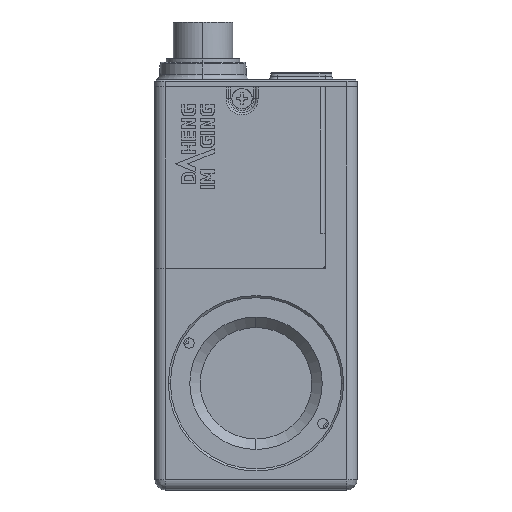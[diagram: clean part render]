
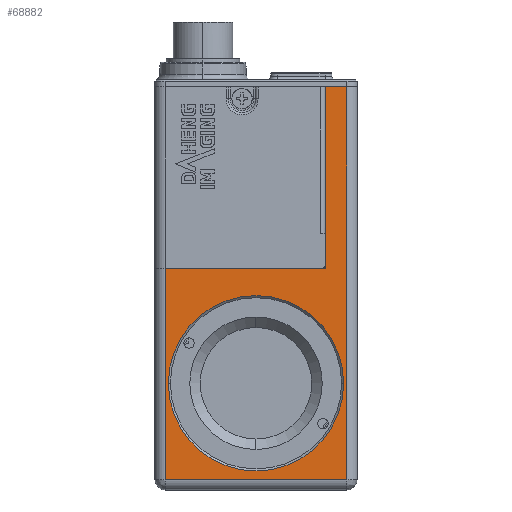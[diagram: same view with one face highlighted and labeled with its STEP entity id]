
A CAD part, left-side view. The second image highlights one B-rep face of the part: STEP entity #68882.
In plain terms, the highlighted planar face has unit normal (-1, 0, 0).
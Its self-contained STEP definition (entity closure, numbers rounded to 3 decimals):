
#1715 = EDGE_CURVE ( 'NONE', #42790, #14142, #74611, .T. ) ;
#11756 = EDGE_LOOP ( 'NONE', ( #15202, #92175 ) ) ;
#13506 = CIRCLE ( 'NONE', #33019, 12.575 ) ;
#14142 = VERTEX_POINT ( 'NONE', #82977 ) ;
#14228 = VERTEX_POINT ( 'NONE', #83922 ) ;
#14971 = VECTOR ( 'NONE', #45664, 1000. ) ;
#15202 = ORIENTED_EDGE ( 'NONE', *, *, #83042, .F. ) ;
#16471 = AXIS2_PLACEMENT_3D ( 'NONE', #24037, #74594, #31284 ) ;
#17669 = DIRECTION ( 'NONE',  ( 0., -1., 0. ) ) ;
#17696 = CARTESIAN_POINT ( 'NONE',  ( -14.52, -14.525, -14.3 ) ) ;
#24037 = CARTESIAN_POINT ( 'NONE',  ( -14.52, -0.025, -0.5 ) ) ;
#24050 = CARTESIAN_POINT ( 'NONE',  ( -14.52, -0.025, -0.5 ) ) ;
#24801 = CARTESIAN_POINT ( 'NONE',  ( -14.52, -10.025, 16. ) ) ;
#25388 = CIRCLE ( 'NONE', #16471, 12.575 ) ;
#25636 = DIRECTION ( 'NONE',  ( 0., 0., 1. ) ) ;
#28896 = EDGE_CURVE ( 'NONE', #14142, #75212, #91260, .T. ) ;
#29471 = PLANE ( 'NONE',  #84228 ) ;
#31284 = DIRECTION ( 'NONE',  ( 0., -1., 0. ) ) ;
#31294 = DIRECTION ( 'NONE',  ( 0., -1., 0. ) ) ;
#31672 = EDGE_CURVE ( 'NONE', #42790, #52888, #47357, .T. ) ;
#33019 = AXIS2_PLACEMENT_3D ( 'NONE', #24050, #74604, #31294 ) ;
#33243 = VECTOR ( 'NONE', #42473, 1000. ) ;
#35157 = ORIENTED_EDGE ( 'NONE', *, *, #1715, .F. ) ;
#35482 = LINE ( 'NONE', #63959, #33243 ) ;
#36829 = CARTESIAN_POINT ( 'NONE',  ( -14.52, 12.55, -0.5 ) ) ;
#36973 = CARTESIAN_POINT ( 'NONE',  ( -14.52, -13.025, -14.3 ) ) ;
#38258 = EDGE_CURVE ( 'NONE', #56301, #14228, #43255, .T. ) ;
#38282 = DIRECTION ( 'NONE',  ( 0., 1., 0. ) ) ;
#39828 = ORIENTED_EDGE ( 'NONE', *, *, #31672, .T. ) ;
#40061 = ORIENTED_EDGE ( 'NONE', *, *, #75271, .F. ) ;
#41001 = EDGE_CURVE ( 'NONE', #75212, #56301, #35482, .T. ) ;
#42473 = DIRECTION ( 'NONE',  ( 0., 0., -1. ) ) ;
#42790 = VERTEX_POINT ( 'NONE', #24801 ) ;
#43255 = LINE ( 'NONE', #17696, #79380 ) ;
#43257 = ORIENTED_EDGE ( 'NONE', *, *, #38258, .F. ) ;
#44365 = DIRECTION ( 'NONE',  ( 0., 0., -1. ) ) ;
#44741 = CARTESIAN_POINT ( 'NONE',  ( -14.52, -13.025, 42. ) ) ;
#45664 = DIRECTION ( 'NONE',  ( 0., 0., 1. ) ) ;
#47357 = LINE ( 'NONE', #83741, #64295 ) ;
#52888 = VERTEX_POINT ( 'NONE', #59545 ) ;
#52940 = VECTOR ( 'NONE', #17669, 1000. ) ;
#56301 = VERTEX_POINT ( 'NONE', #36973 ) ;
#59545 = CARTESIAN_POINT ( 'NONE',  ( -14.52, 12.975, 16. ) ) ;
#61715 = CARTESIAN_POINT ( 'NONE',  ( -14.52, -10.025, 16. ) ) ;
#62394 = EDGE_CURVE ( 'NONE', #70853, #63737, #13506, .T. ) ;
#63737 = VERTEX_POINT ( 'NONE', #90124 ) ;
#63959 = CARTESIAN_POINT ( 'NONE',  ( -14.52, -13.025, 16. ) ) ;
#64295 = VECTOR ( 'NONE', #90945, 1000. ) ;
#68302 = CARTESIAN_POINT ( 'NONE',  ( -14.52, -14.525, 42. ) ) ;
#68882 = ADVANCED_FACE ( 'NONE', ( #83822, #79239 ), #29471, .F. ) ;
#70853 = VERTEX_POINT ( 'NONE', #36829 ) ;
#72725 = LINE ( 'NONE', #88876, #14971 ) ;
#74594 = DIRECTION ( 'NONE',  ( -1., 0., 0. ) ) ;
#74604 = DIRECTION ( 'NONE',  ( -1., 0., 0. ) ) ;
#74611 = LINE ( 'NONE', #61715, #76873 ) ;
#75212 = VERTEX_POINT ( 'NONE', #44741 ) ;
#75271 = EDGE_CURVE ( 'NONE', #14228, #52888, #72725, .T. ) ;
#76370 = EDGE_LOOP ( 'NONE', ( #40061, #43257, #86246, #76614, #35157, #39828 ) ) ;
#76614 = ORIENTED_EDGE ( 'NONE', *, *, #28896, .F. ) ;
#76873 = VECTOR ( 'NONE', #25636, 1000. ) ;
#79239 = FACE_BOUND ( 'NONE', #11756, .T. ) ;
#79380 = VECTOR ( 'NONE', #38282, 1000. ) ;
#80347 = CARTESIAN_POINT ( 'NONE',  ( -14.52, -14.525, 16. ) ) ;
#82977 = CARTESIAN_POINT ( 'NONE',  ( -14.52, -10.025, 42. ) ) ;
#83042 = EDGE_CURVE ( 'NONE', #63737, #70853, #25388, .T. ) ;
#83741 = CARTESIAN_POINT ( 'NONE',  ( -14.52, -0.025, 16. ) ) ;
#83822 = FACE_OUTER_BOUND ( 'NONE', #76370, .T. ) ;
#83922 = CARTESIAN_POINT ( 'NONE',  ( -14.52, 12.975, -14.3 ) ) ;
#84228 = AXIS2_PLACEMENT_3D ( 'NONE', #80347, #87591, #44365 ) ;
#86246 = ORIENTED_EDGE ( 'NONE', *, *, #41001, .F. ) ;
#87591 = DIRECTION ( 'NONE',  ( 1., 0., 0. ) ) ;
#88876 = CARTESIAN_POINT ( 'NONE',  ( -14.52, 12.975, 14. ) ) ;
#90124 = CARTESIAN_POINT ( 'NONE',  ( -14.52, -12.6, -0.5 ) ) ;
#90945 = DIRECTION ( 'NONE',  ( 0., 1., 0. ) ) ;
#91260 = LINE ( 'NONE', #68302, #52940 ) ;
#92175 = ORIENTED_EDGE ( 'NONE', *, *, #62394, .F. ) ;
